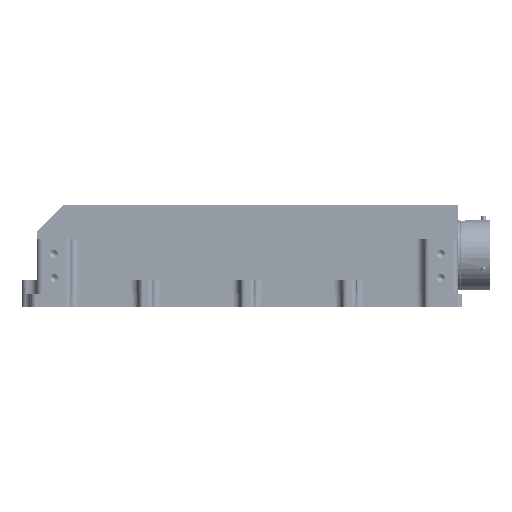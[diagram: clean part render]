
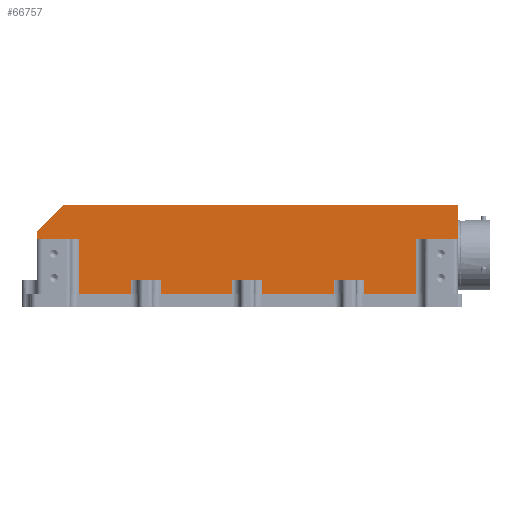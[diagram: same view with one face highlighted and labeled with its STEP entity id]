
A CAD part, left-side view. The second image highlights one B-rep face of the part: STEP entity #66757.
In plain terms, the highlighted planar face has unit normal (-1, 0, 0).
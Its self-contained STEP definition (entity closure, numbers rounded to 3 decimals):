
#47195=PLANE('',#179859);
#66757=ADVANCED_FACE('BREP_WITH_VOIDS #34734.1',(#72588),#47195,.F.);
#72588=FACE_OUTER_BOUND('',#79546,.T.);
#79546=EDGE_LOOP('',(#114461,#114462,#114463,#114464,#114465,#114466,#114467,
#114468,#114469,#114470,#114471,#114472,#114473,#114474,#114475,#114476,
#114477,#114478,#114479,#114480,#114481));
#114461=ORIENTED_EDGE('',*,*,#150554,.F.);
#114462=ORIENTED_EDGE('',*,*,#149464,.T.);
#114463=ORIENTED_EDGE('',*,*,#149473,.T.);
#114464=ORIENTED_EDGE('',*,*,#149478,.T.);
#114465=ORIENTED_EDGE('',*,*,#149487,.T.);
#114466=ORIENTED_EDGE('',*,*,#150555,.F.);
#114467=ORIENTED_EDGE('',*,*,#150430,.F.);
#114468=ORIENTED_EDGE('',*,*,#150556,.T.);
#114469=ORIENTED_EDGE('',*,*,#150426,.F.);
#114470=ORIENTED_EDGE('',*,*,#150557,.F.);
#114471=ORIENTED_EDGE('',*,*,#150422,.F.);
#114472=ORIENTED_EDGE('',*,*,#150558,.T.);
#114473=ORIENTED_EDGE('',*,*,#150418,.F.);
#114474=ORIENTED_EDGE('',*,*,#150559,.F.);
#114475=ORIENTED_EDGE('',*,*,#150414,.F.);
#114476=ORIENTED_EDGE('',*,*,#150560,.T.);
#114477=ORIENTED_EDGE('',*,*,#150410,.F.);
#114478=ORIENTED_EDGE('',*,*,#150561,.F.);
#114479=ORIENTED_EDGE('',*,*,#150406,.F.);
#114480=ORIENTED_EDGE('',*,*,#150562,.T.);
#114481=ORIENTED_EDGE('',*,*,#150402,.F.);
#131697=VERTEX_POINT('',#271531);
#131698=VERTEX_POINT('',#271533);
#131704=VERTEX_POINT('',#271550);
#131707=VERTEX_POINT('',#271560);
#131712=VERTEX_POINT('',#271577);
#132332=VERTEX_POINT('',#274025);
#132333=VERTEX_POINT('',#274027);
#132336=VERTEX_POINT('',#274034);
#132337=VERTEX_POINT('',#274036);
#132340=VERTEX_POINT('',#274043);
#132341=VERTEX_POINT('',#274045);
#132344=VERTEX_POINT('',#274052);
#132345=VERTEX_POINT('',#274054);
#132348=VERTEX_POINT('',#274061);
#132349=VERTEX_POINT('',#274063);
#132352=VERTEX_POINT('',#274070);
#132353=VERTEX_POINT('',#274072);
#132356=VERTEX_POINT('',#274079);
#132357=VERTEX_POINT('',#274081);
#132360=VERTEX_POINT('',#274088);
#132361=VERTEX_POINT('',#274090);
#149464=EDGE_CURVE('',#131698,#131697,#156802,.T.);
#149473=EDGE_CURVE('',#131697,#131704,#156811,.T.);
#149478=EDGE_CURVE('',#131704,#131707,#156816,.T.);
#149487=EDGE_CURVE('',#131707,#131712,#156825,.T.);
#150402=EDGE_CURVE('',#132332,#132333,#157422,.T.);
#150406=EDGE_CURVE('',#132336,#132337,#157424,.T.);
#150410=EDGE_CURVE('',#132340,#132341,#157426,.T.);
#150414=EDGE_CURVE('',#132344,#132345,#157428,.T.);
#150418=EDGE_CURVE('',#132348,#132349,#157430,.T.);
#150422=EDGE_CURVE('',#132352,#132353,#157432,.T.);
#150426=EDGE_CURVE('',#132356,#132357,#157434,.T.);
#150430=EDGE_CURVE('',#132360,#132361,#157436,.T.);
#150554=EDGE_CURVE('',#131698,#132332,#157514,.T.);
#150555=EDGE_CURVE('',#132361,#131712,#157515,.T.);
#150556=EDGE_CURVE('',#132360,#132357,#157516,.T.);
#150557=EDGE_CURVE('',#132353,#132356,#157517,.T.);
#150558=EDGE_CURVE('',#132352,#132349,#157518,.T.);
#150559=EDGE_CURVE('',#132345,#132348,#157519,.T.);
#150560=EDGE_CURVE('',#132344,#132341,#157520,.T.);
#150561=EDGE_CURVE('',#132337,#132340,#157521,.T.);
#150562=EDGE_CURVE('',#132336,#132333,#157522,.T.);
#156802=LINE('',#271532,#162937);
#156811=LINE('',#271551,#162946);
#156816=LINE('',#271561,#162951);
#156825=LINE('',#271579,#162960);
#157422=LINE('',#274026,#163557);
#157424=LINE('',#274035,#163559);
#157426=LINE('',#274044,#163561);
#157428=LINE('',#274053,#163563);
#157430=LINE('',#274062,#163565);
#157432=LINE('',#274071,#163567);
#157434=LINE('',#274080,#163569);
#157436=LINE('',#274089,#163571);
#157514=LINE('',#274342,#163649);
#157515=LINE('',#274343,#163650);
#157516=LINE('',#274344,#163651);
#157517=LINE('',#274345,#163652);
#157518=LINE('',#274346,#163653);
#157519=LINE('',#274347,#163654);
#157520=LINE('',#274348,#163655);
#157521=LINE('',#274349,#163656);
#157522=LINE('',#274350,#163657);
#162937=VECTOR('',#214927,1.);
#162946=VECTOR('',#214942,1.);
#162951=VECTOR('',#214951,1.);
#162960=VECTOR('',#214966,1.);
#163557=VECTOR('',#216741,1.);
#163559=VECTOR('',#216749,1.);
#163561=VECTOR('',#216757,1.);
#163563=VECTOR('',#216765,1.);
#163565=VECTOR('',#216773,1.);
#163567=VECTOR('',#216781,1.);
#163569=VECTOR('',#216789,1.);
#163571=VECTOR('',#216797,1.);
#163649=VECTOR('',#217027,1.);
#163650=VECTOR('',#217028,1.);
#163651=VECTOR('',#217029,1.);
#163652=VECTOR('',#217030,1.);
#163653=VECTOR('',#217031,1.);
#163654=VECTOR('',#217032,1.);
#163655=VECTOR('',#217033,1.);
#163656=VECTOR('',#217034,1.);
#163657=VECTOR('',#217035,1.);
#179859=AXIS2_PLACEMENT_3D('',#274351,#217036,#217037);
#214927=DIRECTION('',(0.,0.,1.));
#214942=DIRECTION('',(0.,1.,0.));
#214951=DIRECTION('',(0.,0.707,-0.707));
#214966=DIRECTION('',(0.,0.,-1.));
#216741=DIRECTION('',(0.,0.,-1.));
#216749=DIRECTION('',(0.,0.,1.));
#216757=DIRECTION('',(0.,0.,-1.));
#216765=DIRECTION('',(0.,0.,1.));
#216773=DIRECTION('',(0.,0.,-1.));
#216781=DIRECTION('',(0.,0.,1.));
#216789=DIRECTION('',(0.,0.,-1.));
#216797=DIRECTION('',(0.,0.,1.));
#217027=DIRECTION('',(0.,1.,0.));
#217028=DIRECTION('',(0.,1.,0.));
#217029=DIRECTION('',(0.,-1.,0.));
#217030=DIRECTION('',(0.,1.,0.));
#217031=DIRECTION('',(0.,-1.,0.));
#217032=DIRECTION('',(0.,1.,0.));
#217033=DIRECTION('',(0.,-1.,0.));
#217034=DIRECTION('',(0.,1.,0.));
#217035=DIRECTION('',(0.,-1.,0.));
#217036=DIRECTION('',(1.,0.,0.));
#217037=DIRECTION('',(0.,1.,0.));
#271531=CARTESIAN_POINT('',(6.,1.9,38.9));
#271532=CARTESIAN_POINT('',(6.,1.9,31.95));
#271533=CARTESIAN_POINT('',(6.,1.9,25.));
#271550=CARTESIAN_POINT('',(6.,162.959,38.9));
#271551=CARTESIAN_POINT('',(6.,82.429,38.9));
#271560=CARTESIAN_POINT('',(6.,173.9,27.959));
#271561=CARTESIAN_POINT('',(6.,168.429,33.429));
#271577=CARTESIAN_POINT('',(6.,173.9,25.));
#271579=CARTESIAN_POINT('',(6.,173.9,26.479));
#274025=CARTESIAN_POINT('',(6.,18.9,25.));
#274026=CARTESIAN_POINT('',(6.,18.9,13.75));
#274027=CARTESIAN_POINT('',(6.,18.9,2.5));
#274034=CARTESIAN_POINT('',(6.,40.25,2.5));
#274035=CARTESIAN_POINT('',(6.,40.25,5.25));
#274036=CARTESIAN_POINT('',(6.,40.25,8.));
#274043=CARTESIAN_POINT('',(6.,52.45,8.));
#274044=CARTESIAN_POINT('',(6.,52.45,5.25));
#274045=CARTESIAN_POINT('',(6.,52.45,2.5));
#274052=CARTESIAN_POINT('',(6.,81.8,2.5));
#274053=CARTESIAN_POINT('',(6.,81.8,5.25));
#274054=CARTESIAN_POINT('',(6.,81.8,8.));
#274061=CARTESIAN_POINT('',(6.,94.,8.));
#274062=CARTESIAN_POINT('',(6.,94.,5.25));
#274063=CARTESIAN_POINT('',(6.,94.,2.5));
#274070=CARTESIAN_POINT('',(6.,123.35,2.5));
#274071=CARTESIAN_POINT('',(6.,123.35,5.25));
#274072=CARTESIAN_POINT('',(6.,123.35,8.));
#274079=CARTESIAN_POINT('',(6.,135.55,8.));
#274080=CARTESIAN_POINT('',(6.,135.55,5.25));
#274081=CARTESIAN_POINT('',(6.,135.55,2.5));
#274088=CARTESIAN_POINT('',(6.,156.9,2.5));
#274089=CARTESIAN_POINT('',(6.,156.9,13.75));
#274090=CARTESIAN_POINT('',(6.,156.9,25.));
#274342=CARTESIAN_POINT('',(6.,10.4,25.));
#274343=CARTESIAN_POINT('',(6.,165.4,25.));
#274344=CARTESIAN_POINT('',(6.,146.225,2.5));
#274345=CARTESIAN_POINT('',(6.,129.45,8.));
#274346=CARTESIAN_POINT('',(6.,108.675,2.5));
#274347=CARTESIAN_POINT('',(6.,87.9,8.));
#274348=CARTESIAN_POINT('',(6.,67.125,2.5));
#274349=CARTESIAN_POINT('',(6.,46.35,8.));
#274350=CARTESIAN_POINT('',(6.,29.575,2.5));
#274351=CARTESIAN_POINT('',(6.,0.,0.));
